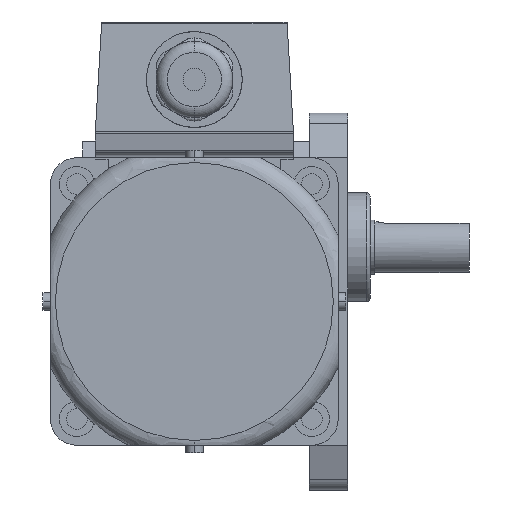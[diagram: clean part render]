
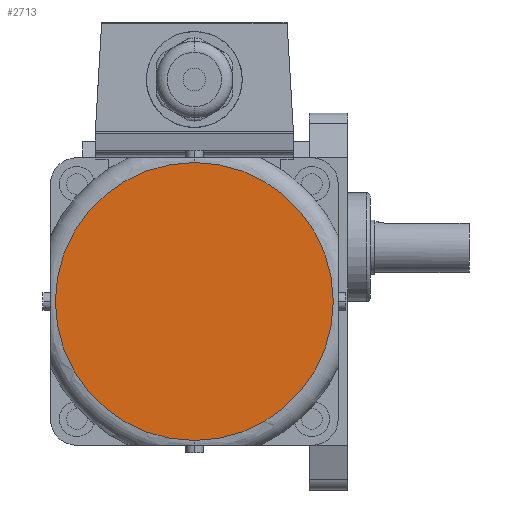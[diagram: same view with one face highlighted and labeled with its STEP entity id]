
A CAD part, left-side view. The second image highlights one B-rep face of the part: STEP entity #2713.
In plain terms, the highlighted planar face has unit normal (-1, 0, 0).
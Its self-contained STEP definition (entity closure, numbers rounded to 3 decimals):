
#2693=CARTESIAN_POINT('POINT445943',(-196.5,48.,26.5));
#2694=VERTEX_POINT('VERTEX445943',#2693);
#2695=CARTESIAN_POINT('POINT445944',(-196.5,48.,-60.5));
#2696=VERTEX_POINT('VERTEX445944',#2695);
#2697=CARTESIAN_POINT('POS746696',(-196.5,48.,-17.));
#2698=DIRECTION('DIR1124214',(-1.,0.,0.));
#2699=DIRECTION('DIR1124215',(0.,0.,-1.));
#2700=AXIS2_PLACEMENT_3D('AXIS377519',#2697,#2698,#2699);
#2701=CIRCLE('ELLIPSE176227',#2700,43.5);
#2702=EDGE_CURVE('EDGE680629',#2694,#2696,#2701,.T.);
#2703=ORIENTED_EDGE('COEDGE1361233',*,*,#2702,.T.);
#2704=EDGE_CURVE('EDGE680630',#2696,#2694,#2701,.T.);
#2705=ORIENTED_EDGE('COEDGE1361234',*,*,#2704,.T.);
#2706=EDGE_LOOP('NONE',(#2703,#2705));
#2707=FACE_BOUND('LOOP1',#2706,.T.);
#2708=CARTESIAN_POINT('POS746697',(-196.5,48.,
   5.25));
#2709=DIRECTION('DIR1124216',(-1.,0.,0.));
#2710=DIRECTION('DIR1124217',(0.,1.,0.));
#2711=AXIS2_PLACEMENT_3D('AXIS377520',#2708,#2709,#2710);
#2712=PLANE('PLANE121440',#2711);
#2713=ADVANCED_FACE('FACE278449',(#2707),#2712,.T.);
